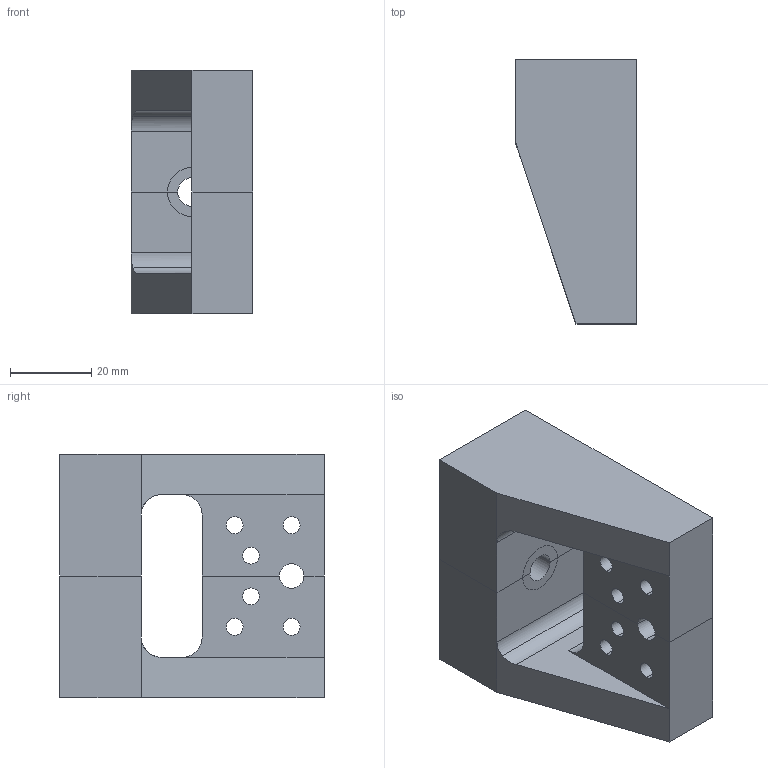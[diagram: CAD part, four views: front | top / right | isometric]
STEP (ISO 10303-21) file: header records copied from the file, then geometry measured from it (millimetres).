
FILE_DESCRIPTION(('Open CASCADE Model'),'2;1');
FILE_NAME('Open CASCADE Shape Model','2006-04-02T17:36:46',('Author'),( 'Open CASCADE'),'Open CASCADE STEP processor 5.2','Open CASCADE 5.2' ,'Unknown');
FILE_SCHEMA(('AUTOMOTIVE_DESIGN_CC2 { 1 2 10303 214 -1 1 5 4 }'));
Length unit declared in the file: millimetre
Products named in the file (5): Product 1; Product 1.1; Product 1.2; Product 1.3; Product 1.4
Assembly tree (4 placements, depth 2):
  Product 1
    Product 1.1
    Product 1.2
    Product 1.3
    Product 1.4
Bounding box: 30 x 65 x 60 mm (x, y, z)
Volume: 72327.2 mm3; surface area: 20092.4 mm2
Topology: 4 solids, 4 shells, 66 faces, 170 edges, 112 vertices
Faces by surface type: plane 36, bspline 18, cylinder 12
Entity records: 6982 total; most frequent: CARTESIAN_POINT 3861, DIRECTION 466, ORIENTED_EDGE 340, PCURVE 340, DEFINITIONAL_REPRESENTATION 340, LINE 206, VECTOR 206, B_SPLINE_CURVE_WITH_KNOTS 184
